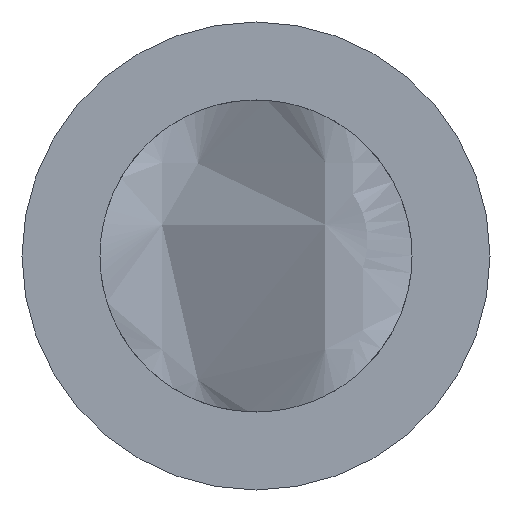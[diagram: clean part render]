
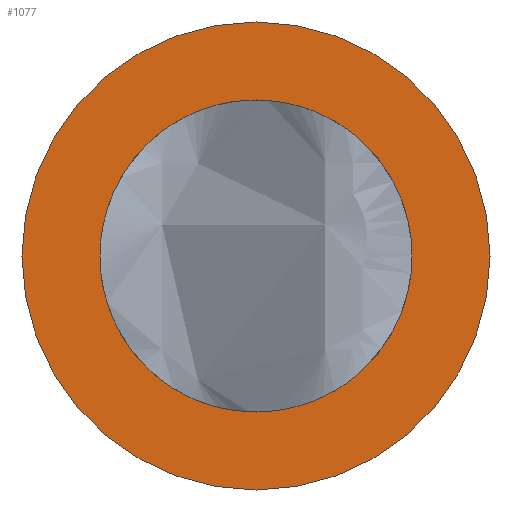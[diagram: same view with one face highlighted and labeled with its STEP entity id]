
A CAD part, front view. The second image highlights one B-rep face of the part: STEP entity #1077.
In plain terms, the highlighted planar face has unit normal (0, -1, 0).
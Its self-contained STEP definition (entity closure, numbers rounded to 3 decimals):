
#739=CARTESIAN_POINT('',(0.,-31.,0.));
#740=DIRECTION('',(0.,-1.,0.));
#741=DIRECTION('',(1.,0.,0.));
#742=AXIS2_PLACEMENT_3D('',#739,#740,#741);
#754=CARTESIAN_POINT('',(0.,-31.,0.));
#755=DIRECTION('',(0.,1.,0.));
#756=DIRECTION('',(1.,0.,0.));
#757=AXIS2_PLACEMENT_3D('',#754,#755,#756);
#819=CARTESIAN_POINT('',(0.,-31.,0.));
#820=DIRECTION('',(0.,1.,0.));
#821=DIRECTION('',(1.,0.,0.));
#822=AXIS2_PLACEMENT_3D('',#819,#820,#821);
#827=CARTESIAN_POINT('',(0.,-31.,0.));
#828=DIRECTION('',(0.,-1.,0.));
#829=DIRECTION('',(1.,0.,0.));
#830=AXIS2_PLACEMENT_3D('',#827,#828,#829);
#977=CARTESIAN_POINT('',(3.3,-31.,0.));
#978=VERTEX_POINT('',#977);
#985=CARTESIAN_POINT('',(-3.3,-31.,0.));
#986=VERTEX_POINT('',#985);
#987=CARTESIAN_POINT('',(2.2,-31.,0.));
#988=CARTESIAN_POINT('',(-2.2,-31.,0.));
#989=VERTEX_POINT('',#987);
#990=VERTEX_POINT('',#988);
#1062=CARTESIAN_POINT('',(0.,-31.,0.));
#1063=DIRECTION('',(0.,-1.,0.));
#1064=DIRECTION('',(-1.,0.,0.));
#1065=AXIS2_PLACEMENT_3D('',#1062,#1063,#1064);
#1066=PLANE('',#1065);
#1068=ORIENTED_EDGE('',*,*,#1067,.T.);
#1070=ORIENTED_EDGE('',*,*,#1069,.F.);
#1071=EDGE_LOOP('',(#1068,#1070));
#1072=FACE_OUTER_BOUND('',#1071,.F.);
#1073=ORIENTED_EDGE('',*,*,#1028,.T.);
#1074=ORIENTED_EDGE('',*,*,#1048,.F.);
#1075=EDGE_LOOP('',(#1073,#1074));
#1076=FACE_BOUND('',#1075,.F.);
#743=CIRCLE('',#742,2.2);
#758=CIRCLE('',#757,2.2);
#823=CIRCLE('',#822,3.3);
#831=CIRCLE('',#830,3.3);
#1028=EDGE_CURVE('',#989,#990,#743,.T.);
#1048=EDGE_CURVE('',#989,#990,#758,.T.);
#1067=EDGE_CURVE('',#978,#986,#823,.T.);
#1069=EDGE_CURVE('',#978,#986,#831,.T.);
#1077=ADVANCED_FACE('',(#1072,#1076),#1066,.T.);
